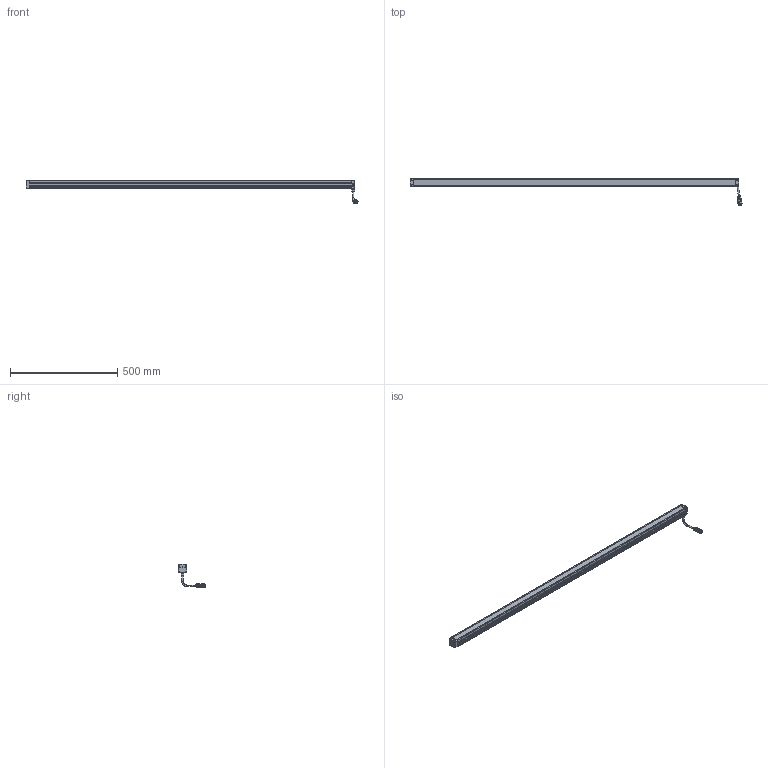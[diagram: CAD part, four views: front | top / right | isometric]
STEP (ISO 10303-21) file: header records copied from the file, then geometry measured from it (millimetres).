
FILE_DESCRIPTION(/* description */ (''),/* implementation_level */ '2;1');
FILE_NAME(/* name */ 'LBHP1500',/* time_stamp */ '2025-01-14T08:10:01+01:00',/* author */ (''),/* organization */ ('iiM AG'),/* preprocessor_version */ 'ST-DEVELOPER v16.7',/* originating_system */ 'DEX',/* authorisation */ $);
FILE_SCHEMA (('AUTOMOTIVE_DESIGN {1 0 10303 214 3 1 1}'));
Length unit declared in the file: millimetre
Products named in the file (1): step export
Bounding box: 1544.79 x 126.2 x 109.58 mm (x, y, z)
Volume: 1951375.8 mm3; surface area: 432807.2 mm2
Topology: 2 solids, 2 shells, 882 faces, 2334 edges, 1476 vertices
Faces by surface type: cylinder 368, plane 336, cone 138, sphere 21, torus 16, bspline 3
Full cylindrical faces by diameter (mm): 1.001 x12, 2.693 x4, 3 x2, 3.1 x4, 3.242 x6, 3.8 x8, 5.6 x8, 6 x8, 6.8 x2, 8.008 x1, 10 x1, 11 x1, 12.9 x2, 14 x1, 15.015 x1, 16.016 x1, 17.518 x1, 18.519 x3, 18.619 x2
Entity records: 32582 total; most frequent: CARTESIAN_POINT 6224, ORIENTED_EDGE 4118, DIRECTION 4048, EDGE_CURVE 2059, AXIS2_PLACEMENT_3D 1523, VERTEX_POINT 1383, FACE_BOUND 1100, EDGE_LOOP 1086
